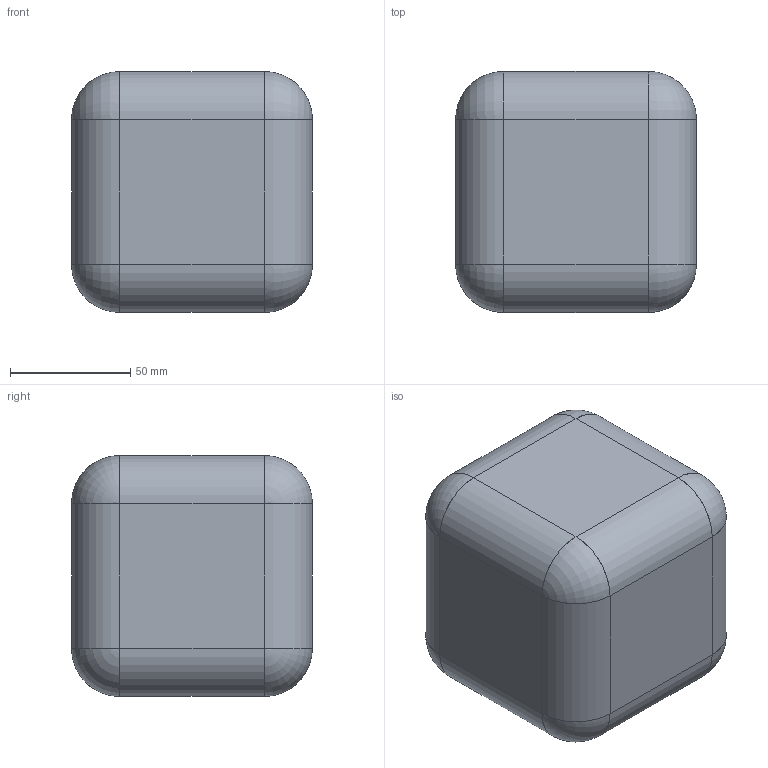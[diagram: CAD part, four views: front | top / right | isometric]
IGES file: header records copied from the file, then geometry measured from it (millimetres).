
Global section: file name: cube.igs; native system: THINKDESIGN 2009.3.110; preprocessor: PDElib Version v4.4, created Mon 02/23/2004 ; date: 20110824.102445; units: millimetre
Bounding box: 100 x 100 x 100 mm (x, y, z)
Surface area: 49246 mm2 (no closed solid volume)
Topology: 0 solids, 0 shells, 26 faces, 104 edges, 96 vertices
Faces by surface type: bspline 14, extrusion 12
